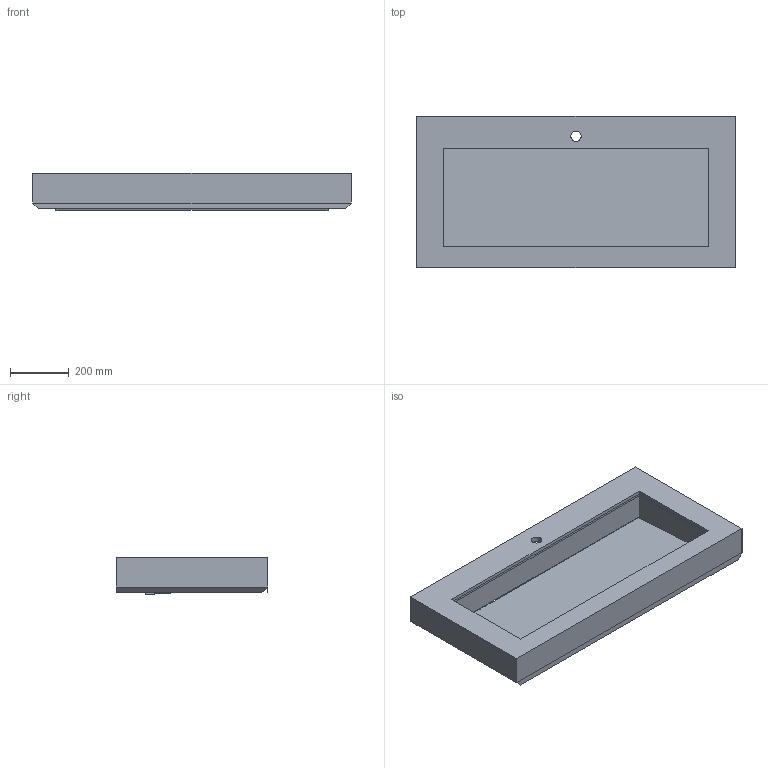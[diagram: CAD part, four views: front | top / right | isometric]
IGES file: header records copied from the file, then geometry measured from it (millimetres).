
Start section: Data from Parasolid IGES Translator 19.0.9, Copyright(c) 2006 Siemens PL M Software. All Rights Reserved.
Global section: file name: noorth-top-H 11,9 D 51,3 W 108_4965.igs; native system: By Siemens PLM Incorporated; preprocessor: XPlus GENERIC/IGES 19.0.9; author: Noname; organization: Noname; date: 20200603.114002; units: metre
Bounding box: 1080 x 512 x 125.58 mm (x, y, z)
Volume: 15323853.3 mm3; surface area: 2182832.1 mm2
Topology: 2 solids, 2 shells, 40 faces, 107 edges, 70 vertices
Faces by surface type: plane 39, cylinder 1
Full cylindrical faces by diameter (mm): 34.9 x1
